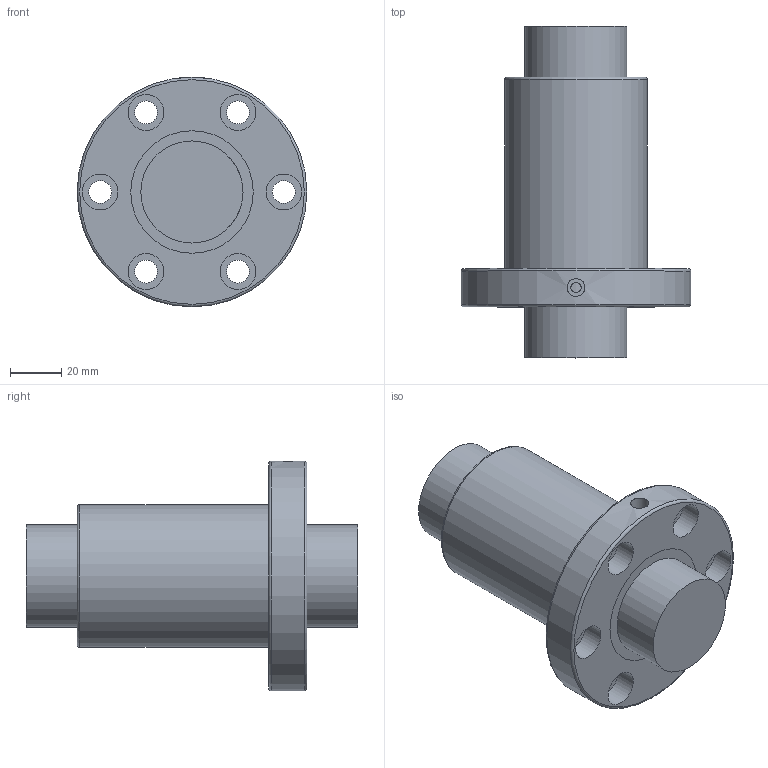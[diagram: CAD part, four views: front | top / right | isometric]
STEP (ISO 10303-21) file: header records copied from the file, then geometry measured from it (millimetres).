
FILE_DESCRIPTION(/* description */ (''),/* implementation_level */ '2;1');
FILE_NAME(/* name */ 'OFI04005-4.stp',/* time_stamp */ '2017-03-13T10:45:16+08:00',/* author */ (''),/* organization */ (''),/* preprocessor_version */ 'ST-DEVELOPER v11',/* originating_system */ 'SIEMENS UGS NX 6.0',/* authorisation */ '');
FILE_SCHEMA (('CONFIG_CONTROL_DESIGN'));
Length unit declared in the file: millimetre
Products named in the file (1): OFI04005-4
Bounding box: 90 x 130 x 90 mm (x, y, z)
Volume: 319484.3 mm3; surface area: 65329.4 mm2
Topology: 4 solids, 4 shells, 45 faces, 84 edges, 56 vertices
Faces by surface type: cylinder 24, plane 18, torus 3
Full cylindrical faces by diameter (mm): 4 x1, 7 x1, 9 x6, 14 x6, 40 x4, 48 x4, 56 x1, 90 x1
Entity records: 1192 total; most frequent: CARTESIAN_POINT 262, DIRECTION 190, EDGE_LOOP 102, ORIENTED_EDGE 102, FACE_BOUND 100, AXIS2_PLACEMENT_3D 95, VERTEX_POINT 51, EDGE_CURVE 51
